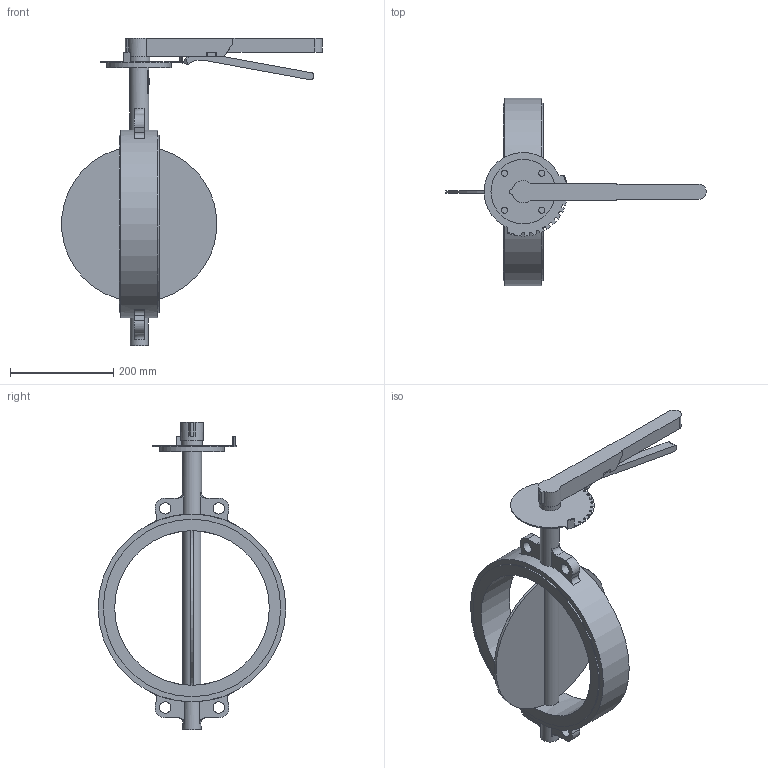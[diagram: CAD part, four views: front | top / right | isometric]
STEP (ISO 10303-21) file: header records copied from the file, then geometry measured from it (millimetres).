
FILE_DESCRIPTION(('STEP AP203'), '1');
FILE_NAME('Çàòâîð 017W.Y_DN300_PN10_ðóêîÿòü', '', ('UNSPECIFIED'), ('UNSPECIFIED'), 'ASCON STEP Converter 1.6', 'ASCON Math Kernel', '');
FILE_SCHEMA(('CONFIG_CONTROL_DESIGN'));
Length unit declared in the file: millimetre
Bounding box: 505.2 x 364.2 x 596 mm (x, y, z)
Volume: 4009546.5 mm3; surface area: 526444.1 mm2
Topology: 1 solids, 1 shells, 196 faces, 529 edges, 350 vertices
Faces by surface type: plane 110, cylinder 82, torus 4
Full cylindrical faces by diameter (mm): 12 x4, 22 x4, 35 x2, 37 x1, 41 x1, 125 x1, 300 x1, 344.2 x2, 364.2 x1
Entity records: 8711 total; most frequent: CARTESIAN_POINT 2067, DIRECTION 1072, ORIENTED_EDGE 1024, EDGE_CURVE 512, AXIS2_PLACEMENT_3D 383, VERTEX_POINT 350, LINE 306, VECTOR 306
